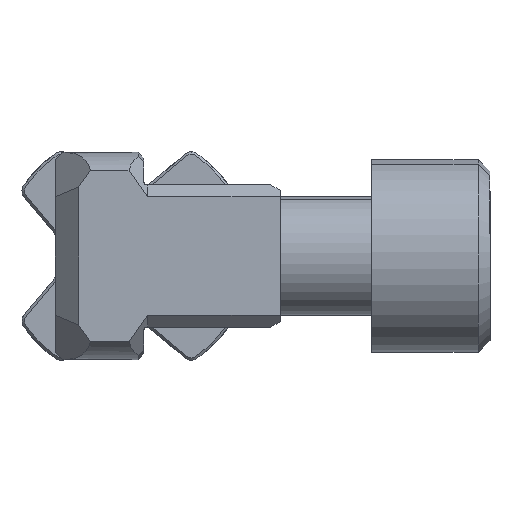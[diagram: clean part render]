
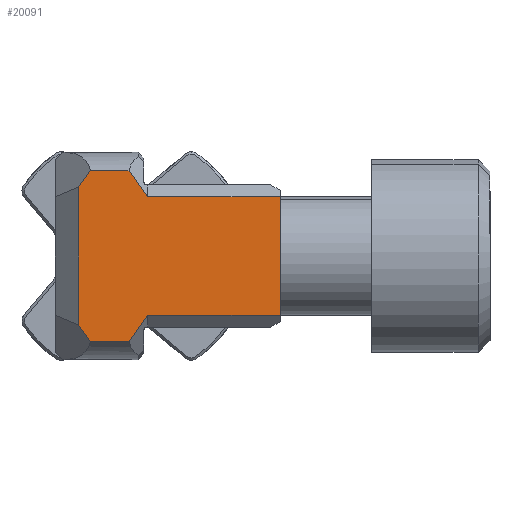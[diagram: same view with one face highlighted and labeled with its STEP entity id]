
A CAD part, front view. The second image highlights one B-rep face of the part: STEP entity #20091.
In plain terms, the highlighted planar face has unit normal (0, -1, 0).
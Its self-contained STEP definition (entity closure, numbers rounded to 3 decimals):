
#55 = CARTESIAN_POINT ( 'NONE',  ( -0.299, 0., -5.847 ) ) ;
#1752 = CARTESIAN_POINT ( 'NONE',  ( 0.2, 0., -5. ) ) ;
#2194 = VECTOR ( 'NONE', #14540, 1000. ) ;
#2364 = VERTEX_POINT ( 'NONE', #18042 ) ;
#2372 = ORIENTED_EDGE ( 'NONE', *, *, #12720, .F. ) ;
#2416 = VERTEX_POINT ( 'NONE', #11030 ) ;
#2811 = ORIENTED_EDGE ( 'NONE', *, *, #9874, .F. ) ;
#2822 = LINE ( 'NONE', #8506, #10706 ) ;
#3144 = CARTESIAN_POINT ( 'NONE',  ( 0.2, 0., -6.2 ) ) ;
#3155 = VECTOR ( 'NONE', #12513, 1000. ) ;
#3526 = CARTESIAN_POINT ( 'NONE',  ( 11.5, 0., 5. ) ) ;
#3580 = VERTEX_POINT ( 'NONE', #4951 ) ;
#3763 = LINE ( 'NONE', #19652, #2194 ) ;
#3932 = EDGE_CURVE ( 'NONE', #2364, #3580, #18913, .T. ) ;
#4023 = EDGE_CURVE ( 'NONE', #7222, #14597, #21267, .T. ) ;
#4245 = LINE ( 'NONE', #20467, #12617 ) ;
#4603 = VECTOR ( 'NONE', #14057, 1000. ) ;
#4951 = CARTESIAN_POINT ( 'NONE',  ( 0.3, 0., 5. ) ) ;
#5047 = EDGE_CURVE ( 'NONE', #20207, #2416, #22997, .T. ) ;
#5524 = LINE ( 'NONE', #10628, #4603 ) ;
#5729 = ORIENTED_EDGE ( 'NONE', *, *, #5047, .T. ) ;
#5972 = VECTOR ( 'NONE', #7201, 1000. ) ;
#6377 = VECTOR ( 'NONE', #23115, 1000. ) ;
#7201 = DIRECTION ( 'NONE',  ( -0.577, 0., 0.816 ) ) ;
#7222 = VERTEX_POINT ( 'NONE', #12303 ) ;
#7285 = AXIS2_PLACEMENT_3D ( 'NONE', #3144, #23360, #10834 ) ;
#7501 = EDGE_CURVE ( 'NONE', #20207, #2364, #3763, .T. ) ;
#8019 = CARTESIAN_POINT ( 'NONE',  ( 0.2, 0., 5. ) ) ;
#8023 = DIRECTION ( 'NONE',  ( 0.577, 0., -0.816 ) ) ;
#8506 = CARTESIAN_POINT ( 'NONE',  ( 11.5, 0., -6. ) ) ;
#9472 = CARTESIAN_POINT ( 'NONE',  ( 0.3, 0., -5. ) ) ;
#9874 = EDGE_CURVE ( 'NONE', #19360, #11026, #2822, .T. ) ;
#10045 = DIRECTION ( 'NONE',  ( 0., 0., -1. ) ) ;
#10152 = ORIENTED_EDGE ( 'NONE', *, *, #10403, .F. ) ;
#10403 = EDGE_CURVE ( 'NONE', #20031, #2416, #4245, .T. ) ;
#10410 = LINE ( 'NONE', #19535, #5972 ) ;
#10464 = ORIENTED_EDGE ( 'NONE', *, *, #15311, .T. ) ;
#10628 = CARTESIAN_POINT ( 'NONE',  ( -7.5, 0., -7.212 ) ) ;
#10706 = VECTOR ( 'NONE', #10045, 1000. ) ;
#10737 = VECTOR ( 'NONE', #21750, 1000. ) ;
#10766 = LINE ( 'NONE', #1752, #10737 ) ;
#10834 = DIRECTION ( 'NONE',  ( 0., 0., 1. ) ) ;
#11026 = VERTEX_POINT ( 'NONE', #21514 ) ;
#11030 = CARTESIAN_POINT ( 'NONE',  ( -5.5, 0., 5.828 ) ) ;
#11821 = ORIENTED_EDGE ( 'NONE', *, *, #7501, .F. ) ;
#12303 = CARTESIAN_POINT ( 'NONE',  ( -1.264, 0., -7.212 ) ) ;
#12513 = DIRECTION ( 'NONE',  ( 0.577, 0., 0.816 ) ) ;
#12617 = VECTOR ( 'NONE', #20350, 1000. ) ;
#12720 = EDGE_CURVE ( 'NONE', #18278, #20031, #10410, .T. ) ;
#13976 = CARTESIAN_POINT ( 'NONE',  ( -4.522, 0., -7.212 ) ) ;
#14057 = DIRECTION ( 'NONE',  ( 1., 0., 0. ) ) ;
#14540 = DIRECTION ( 'NONE',  ( 1., 0., 0. ) ) ;
#14597 = VERTEX_POINT ( 'NONE', #9472 ) ;
#14749 = EDGE_LOOP ( 'NONE', ( #2372, #19827, #20610, #10464, #2811, #14930, #22901, #11821, #5729, #10152 ) ) ;
#14930 = ORIENTED_EDGE ( 'NONE', *, *, #22871, .F. ) ;
#15311 = EDGE_CURVE ( 'NONE', #14597, #11026, #10766, .T. ) ;
#15594 = VECTOR ( 'NONE', #8023, 1000. ) ;
#15799 = CARTESIAN_POINT ( 'NONE',  ( -5.5, 0., -5.828 ) ) ;
#17131 = LINE ( 'NONE', #8019, #20196 ) ;
#17707 = FACE_OUTER_BOUND ( 'NONE', #14749, .T. ) ;
#18042 = CARTESIAN_POINT ( 'NONE',  ( -1.264, 0., 7.212 ) ) ;
#18278 = VERTEX_POINT ( 'NONE', #13976 ) ;
#18518 = CARTESIAN_POINT ( 'NONE',  ( -4.522, 0., 7.212 ) ) ;
#18913 = LINE ( 'NONE', #19282, #15594 ) ;
#19127 = EDGE_CURVE ( 'NONE', #18278, #7222, #5524, .T. ) ;
#19282 = CARTESIAN_POINT ( 'NONE',  ( -0.299, 0., 5.847 ) ) ;
#19360 = VERTEX_POINT ( 'NONE', #3526 ) ;
#19498 = PLANE ( 'NONE',  #7285 ) ;
#19535 = CARTESIAN_POINT ( 'NONE',  ( -3.425, 0., -8.763 ) ) ;
#19652 = CARTESIAN_POINT ( 'NONE',  ( -7.5, 0., 7.212 ) ) ;
#19827 = ORIENTED_EDGE ( 'NONE', *, *, #19127, .T. ) ;
#20031 = VERTEX_POINT ( 'NONE', #15799 ) ;
#20091 = ADVANCED_FACE ( 'NONE', ( #17707 ), #19498, .F. ) ;
#20196 = VECTOR ( 'NONE', #20575, 1000. ) ;
#20207 = VERTEX_POINT ( 'NONE', #18518 ) ;
#20350 = DIRECTION ( 'NONE',  ( 0., 0., 1. ) ) ;
#20467 = CARTESIAN_POINT ( 'NONE',  ( -5.5, 0., -6.2 ) ) ;
#20575 = DIRECTION ( 'NONE',  ( 1., 0., 0. ) ) ;
#20610 = ORIENTED_EDGE ( 'NONE', *, *, #4023, .T. ) ;
#21239 = CARTESIAN_POINT ( 'NONE',  ( -3.425, 0., 8.763 ) ) ;
#21267 = LINE ( 'NONE', #55, #3155 ) ;
#21514 = CARTESIAN_POINT ( 'NONE',  ( 11.5, 0., -5. ) ) ;
#21750 = DIRECTION ( 'NONE',  ( 1., 0., 0. ) ) ;
#22871 = EDGE_CURVE ( 'NONE', #3580, #19360, #17131, .T. ) ;
#22901 = ORIENTED_EDGE ( 'NONE', *, *, #3932, .F. ) ;
#22997 = LINE ( 'NONE', #21239, #6377 ) ;
#23115 = DIRECTION ( 'NONE',  ( -0.577, 0., -0.816 ) ) ;
#23360 = DIRECTION ( 'NONE',  ( 0., 1., 0. ) ) ;
